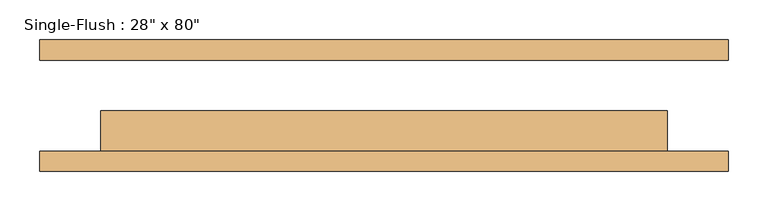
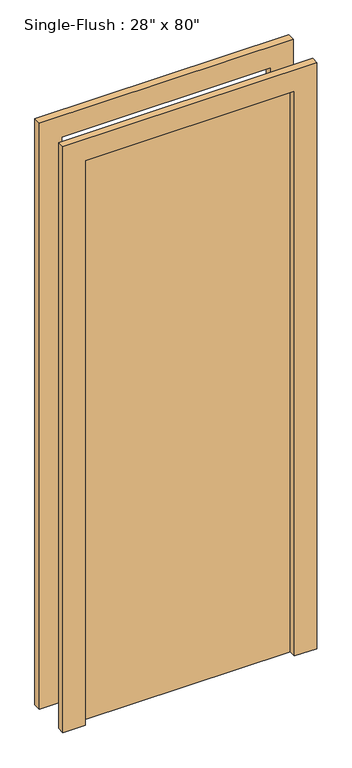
"""IFC4 building model written with IfcOpenShell, lengths in millimetres: door geometry."""

from ifc_helpers import new_model, si_unit, frame, origin, origin_with_axes, place, context, project, spatial, polyline, outline, extrude, source, transform, mapped, element, save


def door_2d0eeab4(model_context):
    return source(origin(), model_context, "Body", "SweptSolid", [
        extrude(outline(polyline([(2108.2, -431.8), (0.0, -431.8), (0.0, -355.6), (2032.0, -355.6), (2032.0, 355.6), (0.0, 355.6), (0.0, 431.8), (2108.2, 431.8), (2108.2, -431.8)])), frame((0.0, -82.55, 0.0), z_axis=(0.0, 1.0, 0.0), x_axis=(0.0, 0.0, 1.0)), (0.0, 0.0, 1.0), 25.4),
        extrude(outline(polyline([(2108.2, 431.8), (2108.2, -431.8), (0.0, -431.8), (0.0, -355.6), (2032.0, -355.6), (2032.0, 355.6), (0.0, 355.6), (0.0, 431.8), (2108.2, 431.8)])), frame((0.0, 57.15, 0.0), z_axis=(0.0, 1.0, 0.0), x_axis=(0.0, 0.0, 1.0)), (0.0, 0.0, 1.0), 25.4),
        extrude(outline(polyline([(355.6, -6.35), (355.6, -57.15), (-355.6, -57.15), (-355.6, -6.35), (355.6, -6.35)])), origin_with_axes(), (0.0, 0.0, 1.0), 2032.0),
    ])


if __name__ == "__main__":
    model = new_model("IFC4")
    model_context = context("Model", 3, world=origin())
    ifc_project = project(units=[si_unit("LENGTHUNIT", "METRE", prefix="MILLI")], contexts=[model_context])
    site = spatial("IfcSite", under=ifc_project)
    building = spatial("IfcBuilding", under=site)
    placement = place(None, origin())
    door_shape = door_2d0eeab4(model_context)
    element("IfcDoor", 1, ObjectType="Single-Flush : 28\" x 80\"", at=placement, inside=building, context=model_context, shape_type="MappedRepresentation", body=[
        mapped(door_shape, transform((0.0, 0.0, 0.0), x_axis=(1.0, 0.0, 0.0), y_axis=(0.0, 1.0, 0.0), z_axis=(0.0, 0.0, 1.0))),
    ])
    save(model, "model.ifc")
